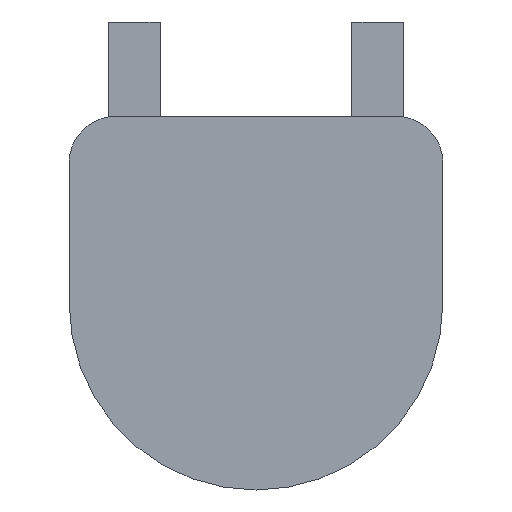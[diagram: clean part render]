
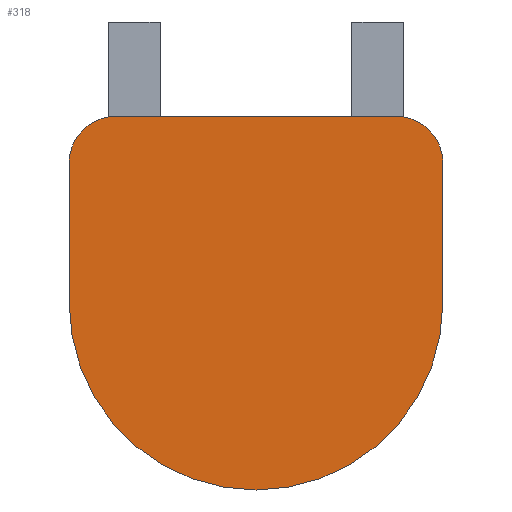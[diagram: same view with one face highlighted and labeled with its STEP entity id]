
A CAD part, front view. The second image highlights one B-rep face of the part: STEP entity #318.
In plain terms, the highlighted planar face has unit normal (0, -1, 0).
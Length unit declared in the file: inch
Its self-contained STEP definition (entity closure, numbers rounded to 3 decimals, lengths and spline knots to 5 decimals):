
#8 = DIRECTION ( 'NONE',  ( 0., 0., 1. ) ) ;
#17 = EDGE_CURVE ( 'NONE', #632, #289, #305, .T. ) ;
#22 = AXIS2_PLACEMENT_3D ( 'NONE', #112, #617, #322 ) ;
#24 = CARTESIAN_POINT ( 'NONE',  ( 1., 0., 0. ) ) ;
#33 = FACE_OUTER_BOUND ( 'NONE', #182, .T. ) ;
#51 = CARTESIAN_POINT ( 'NONE',  ( 1., 0., 0. ) ) ;
#56 = CIRCLE ( 'NONE', #517, 0.25 ) ;
#57 = CARTESIAN_POINT ( 'NONE',  ( -1., 0., 0. ) ) ;
#63 = CARTESIAN_POINT ( 'NONE',  ( -1., 0., 0. ) ) ;
#65 = ORIENTED_EDGE ( 'NONE', *, *, #570, .F. ) ;
#66 = CIRCLE ( 'NONE', #621, 1. ) ;
#97 = ORIENTED_EDGE ( 'NONE', *, *, #298, .F. ) ;
#104 = VERTEX_POINT ( 'NONE', #444 ) ;
#112 = CARTESIAN_POINT ( 'NONE',  ( -0.75, 0., 0.75 ) ) ;
#129 = CIRCLE ( 'NONE', #217, 1. ) ;
#142 = VERTEX_POINT ( 'NONE', #400 ) ;
#145 = DIRECTION ( 'NONE',  ( 0., 1., 0. ) ) ;
#149 = LINE ( 'NONE', #557, #454 ) ;
#173 = DIRECTION ( 'NONE',  ( 0., 0., -1. ) ) ;
#182 = EDGE_LOOP ( 'NONE', ( #394, #97, #65, #220, #350, #287, #588 ) ) ;
#217 = AXIS2_PLACEMENT_3D ( 'NONE', #587, #384, #447 ) ;
#220 = ORIENTED_EDGE ( 'NONE', *, *, #585, .F. ) ;
#225 = DIRECTION ( 'NONE',  ( 0., 1., 0. ) ) ;
#242 = VERTEX_POINT ( 'NONE', #301 ) ;
#259 = CARTESIAN_POINT ( 'NONE',  ( 0.75, 0., 0.75 ) ) ;
#281 = EDGE_CURVE ( 'NONE', #142, #632, #129, .T. ) ;
#285 = DIRECTION ( 'NONE',  ( 0., 1., 0. ) ) ;
#287 = ORIENTED_EDGE ( 'NONE', *, *, #17, .F. ) ;
#289 = VERTEX_POINT ( 'NONE', #488 ) ;
#296 = LINE ( 'NONE', #51, #338 ) ;
#298 = EDGE_CURVE ( 'NONE', #389, #501, #296, .T. ) ;
#301 = CARTESIAN_POINT ( 'NONE',  ( -0.75, 0., 1. ) ) ;
#305 = LINE ( 'NONE', #57, #499 ) ;
#318 = ADVANCED_FACE ( 'NONE', ( #33 ), #568, .F. ) ;
#322 = DIRECTION ( 'NONE',  ( 0., 0., 1. ) ) ;
#338 = VECTOR ( 'NONE', #173, 39.37008 ) ;
#348 = DIRECTION ( 'NONE',  ( 0., 0., 1. ) ) ;
#350 = ORIENTED_EDGE ( 'NONE', *, *, #604, .F. ) ;
#360 = CIRCLE ( 'NONE', #22, 0.25 ) ;
#374 = EDGE_CURVE ( 'NONE', #501, #142, #66, .T. ) ;
#384 = DIRECTION ( 'NONE',  ( 0., 1., 0. ) ) ;
#389 = VERTEX_POINT ( 'NONE', #503 ) ;
#394 = ORIENTED_EDGE ( 'NONE', *, *, #374, .F. ) ;
#400 = CARTESIAN_POINT ( 'NONE',  ( 0., 0., -1. ) ) ;
#427 = DIRECTION ( 'NONE',  ( 0., 0., 1. ) ) ;
#444 = CARTESIAN_POINT ( 'NONE',  ( 0.75, 0., 1. ) ) ;
#447 = DIRECTION ( 'NONE',  ( 0., 0., 1. ) ) ;
#454 = VECTOR ( 'NONE', #548, 39.37008 ) ;
#488 = CARTESIAN_POINT ( 'NONE',  ( -1., 0., 0.75 ) ) ;
#498 = AXIS2_PLACEMENT_3D ( 'NONE', #580, #225, #427 ) ;
#499 = VECTOR ( 'NONE', #348, 39.37008 ) ;
#501 = VERTEX_POINT ( 'NONE', #24 ) ;
#503 = CARTESIAN_POINT ( 'NONE',  ( 1., 0., 0.75 ) ) ;
#517 = AXIS2_PLACEMENT_3D ( 'NONE', #259, #145, #8 ) ;
#524 = CARTESIAN_POINT ( 'NONE',  ( 0., 0., 0. ) ) ;
#548 = DIRECTION ( 'NONE',  ( 1., 0., 0. ) ) ;
#557 = CARTESIAN_POINT ( 'NONE',  ( 0., 0., 1. ) ) ;
#568 = PLANE ( 'NONE',  #498 ) ;
#570 = EDGE_CURVE ( 'NONE', #104, #389, #56, .T. ) ;
#580 = CARTESIAN_POINT ( 'NONE',  ( 0., 0., 0. ) ) ;
#585 = EDGE_CURVE ( 'NONE', #242, #104, #149, .T. ) ;
#587 = CARTESIAN_POINT ( 'NONE',  ( 0., 0., 0. ) ) ;
#588 = ORIENTED_EDGE ( 'NONE', *, *, #281, .F. ) ;
#604 = EDGE_CURVE ( 'NONE', #289, #242, #360, .T. ) ;
#617 = DIRECTION ( 'NONE',  ( 0., 1., 0. ) ) ;
#621 = AXIS2_PLACEMENT_3D ( 'NONE', #524, #285, #626 ) ;
#626 = DIRECTION ( 'NONE',  ( 0., 0., 1. ) ) ;
#632 = VERTEX_POINT ( 'NONE', #63 ) ;
